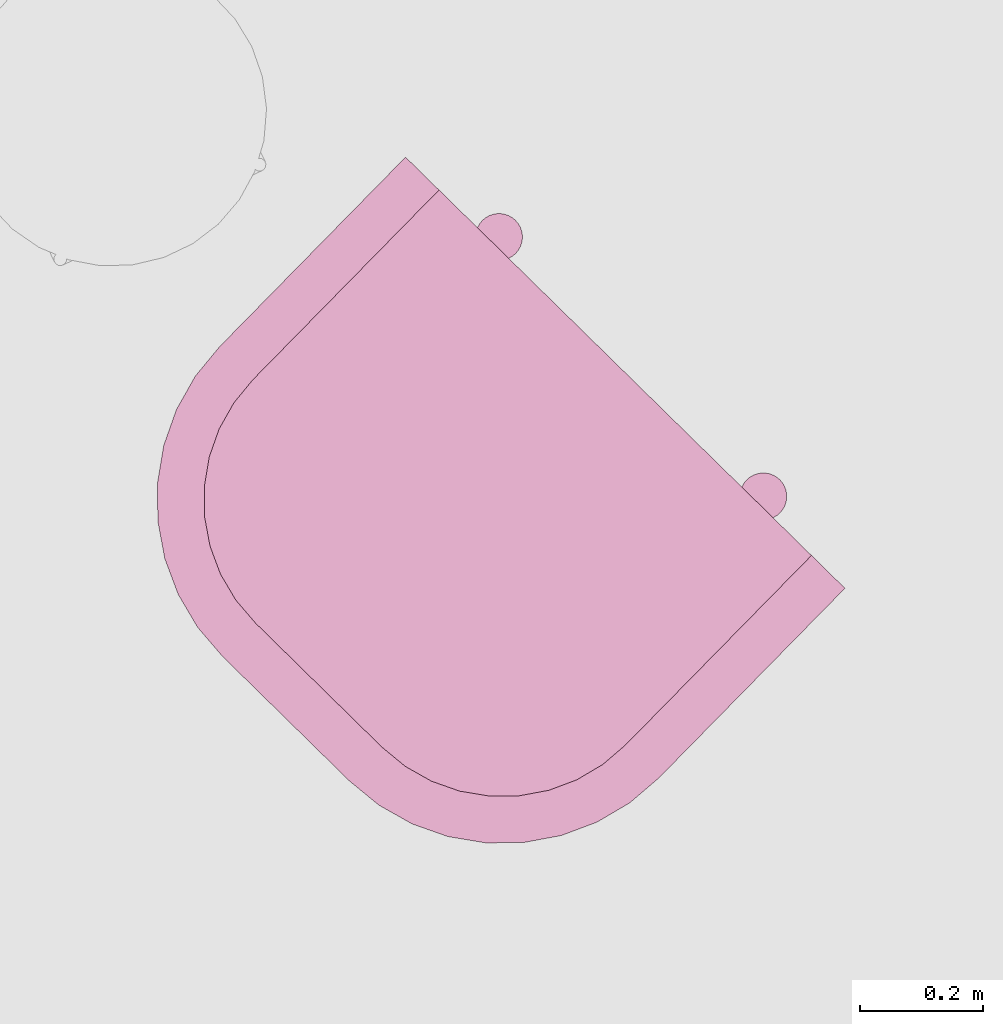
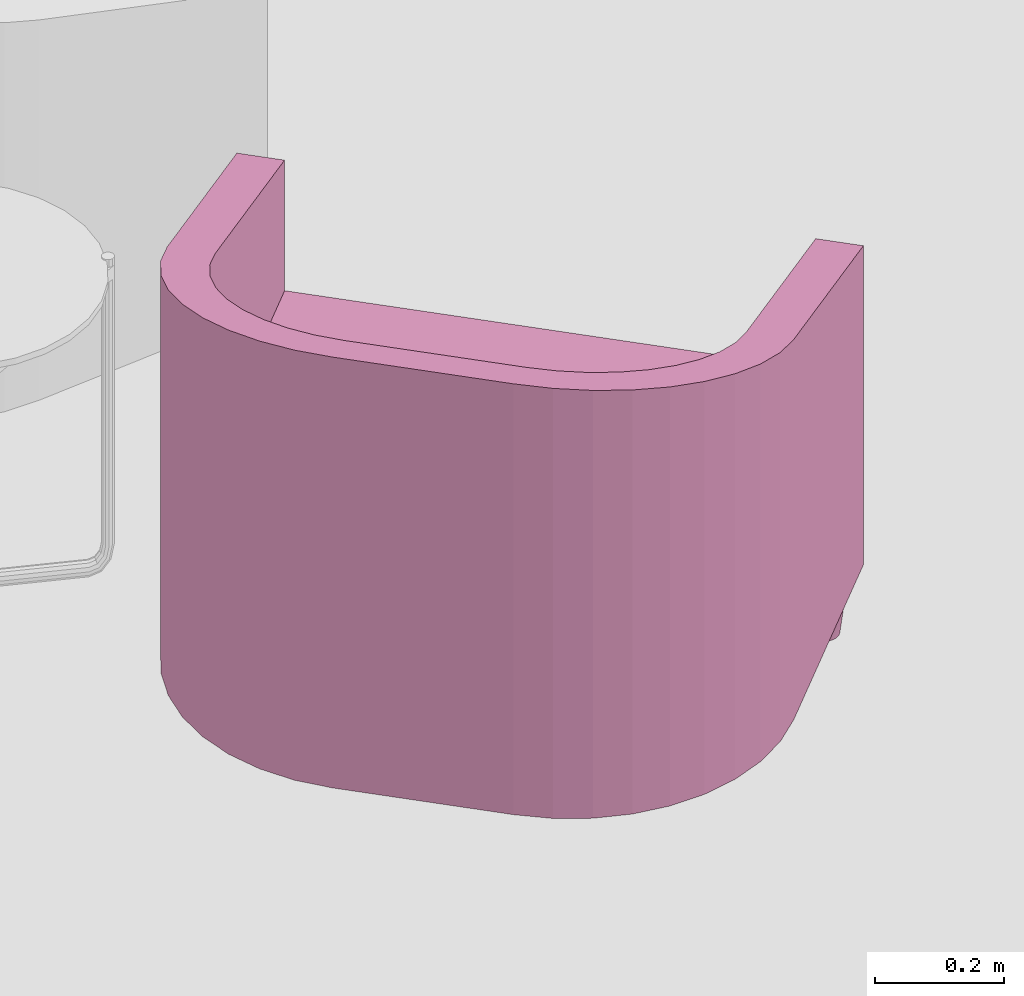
# One storey, part 32 of 52: 1 furnishing.
"""IFC2X3 building model written with IfcOpenShell, lengths in metres."""

from ifc_helpers import new_model, entity, si_unit, converted_unit, derived_unit, money_unit, direction, frame, origin_with_axes, place, context, subcontext, project, spatial, faceted_brep, source, transform, mapped, type_object, element, save


model = new_model("IFC2X3")

# Units and contexts
model_context = context("Model", 3, precision=1e-05, world=origin_with_axes(), true_north=direction((0.0, 1.0)))
body_context = subcontext(model_context, "Body", "Model", "MODEL_VIEW")
ifc_project = project(units=[si_unit("LENGTHUNIT", "METRE"), si_unit("AREAUNIT", "SQUARE_METRE"), si_unit("VOLUMEUNIT", "CUBIC_METRE"), converted_unit("PLANEANGLEUNIT", "DEGREE", entity("IfcPlaneAngleMeasure", 0.0174532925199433), si_unit("PLANEANGLEUNIT", "RADIAN"), dimensions=[0, 0, 0, 0, 0, 0, 0]), money_unit("EUR"), converted_unit("TIMEUNIT", "Year", entity("IfcTimeMeasure", 31556926.0), si_unit("TIMEUNIT", "SECOND"), dimensions=[0, 0, 1, 0, 0, 0, 0]), si_unit("MASSUNIT", "GRAM", prefix="KILO"), si_unit("THERMODYNAMICTEMPERATUREUNIT", "DEGREE_CELSIUS"), si_unit("LUMINOUSINTENSITYUNIT", "LUMEN"), si_unit("ENERGYUNIT", "JOULE", prefix="MEGA"), derived_unit("THERMALCONDUCTANCEUNIT", [(si_unit("POWERUNIT", "WATT"), 1), (si_unit("LENGTHUNIT", "METRE"), -1), (si_unit("THERMODYNAMICTEMPERATUREUNIT", "KELVIN"), -1)]), derived_unit("SPECIFICHEATCAPACITYUNIT", [(si_unit("ENERGYUNIT", "JOULE"), 1), (si_unit("MASSUNIT", "GRAM", prefix="KILO"), -1), (si_unit("THERMODYNAMICTEMPERATUREUNIT", "KELVIN"), -1)]), derived_unit("MASSDENSITYUNIT", [(si_unit("MASSUNIT", "GRAM", prefix="KILO"), 1), (si_unit("VOLUMEUNIT", "CUBIC_METRE"), -1)])], contexts=[model_context])

# Site, building, storey
site_placement = place(None, frame((-3.949935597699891, 1.740105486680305, 0.0), z_axis=(0.0, 0.0, 1.0), x_axis=(0.8799804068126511, -0.475009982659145, 0.0)))
site = spatial("IfcSite", under=ifc_project, at=site_placement, Name="Gelände", CompositionType="ELEMENT")
building_placement = place(site_placement, origin_with_axes())
building = spatial("IfcBuilding", under=site, at=building_placement, Name="Gebäude", CompositionType="ELEMENT")
storey_placement = place(building_placement, origin_with_axes())
storey = spatial("IfcBuildingStorey", under=building, at=storey_placement, Name="Erdgeschoss", CompositionType="ELEMENT", Elevation=0.0)

# Furnishing
furnishing_element_type = type_object("IfcFurnishingElementType", Name="bucket chair (1)")
shared_shape = source(origin_with_axes(), body_context, "Body", "Brep", [
    faceted_brep([(-0.47421411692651, 0.73188933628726, 0.0), (-0.4867211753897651, 0.72968400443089, 0.1016), (-0.4873, 0.7363000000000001, 0.1016), (-0.4746, 0.7363000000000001, 0.0), (-0.473068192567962, 0.7276126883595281, 0.0), (-0.485002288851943, 0.7232690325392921, 0.1016), (-0.482195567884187, 0.71725, 0.1016), (-0.478386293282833, 0.711809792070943, 0.1016), (-0.4736902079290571, 0.707113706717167, 0.1016), (-0.4682499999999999, 0.7033044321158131, 0.1016), (-0.462230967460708, 0.700497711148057, 0.1016), (-0.45581599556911, 0.698778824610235, 0.1016), (-0.4492, 0.6982000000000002, 0.1016), (-0.44258400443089, 0.698778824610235, 0.1016), (-0.436169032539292, 0.700497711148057, 0.1016), (-0.43015, 0.703304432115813, 0.1016), (-0.4247097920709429, 0.707113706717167, 0.1016), (-0.420013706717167, 0.711809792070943, 0.1016), (-0.4162044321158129, 0.71725, 0.1016), (-0.4133977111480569, 0.7232690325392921, 0.1016), (-0.4116788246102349, 0.72968400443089, 0.1016), (-0.4111, 0.7363000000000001, 0.1016), (-0.4116788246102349, 0.7429159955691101, 0.1016), (-0.4133977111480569, 0.749330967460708, 0.1016), (-0.4162044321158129, 0.7553500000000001, 0.1016), (-0.420013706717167, 0.7607902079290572, 0.1016), (-0.4247097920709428, 0.7654862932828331, 0.1016), (-0.43015, 0.7692955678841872, 0.1016), (-0.436169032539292, 0.7721022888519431, 0.1016), (-0.44258400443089, 0.7738211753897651, 0.1016), (-0.4492, 0.7744000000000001, 0.1016), (-0.45581599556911, 0.7738211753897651, 0.1016), (-0.462230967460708, 0.7721022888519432, 0.1016), (-0.46825, 0.7692955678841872, 0.1016), (-0.4736902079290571, 0.7654862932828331, 0.1016), (-0.4783862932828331, 0.7607902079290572, 0.1016), (-0.4821955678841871, 0.7553500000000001, 0.1016), (-0.4850022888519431, 0.749330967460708, 0.1016), (-0.4867211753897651, 0.7429159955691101, 0.1016), (-0.4742141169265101, 0.7407106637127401, 0.0), (-0.4730681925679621, 0.744987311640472, 0.0), (-0.4711970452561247, 0.7490000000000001, 0.0), (-0.468657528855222, 0.7526268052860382, 0.0), (-0.4655268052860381, 0.7557575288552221, 0.0), (-0.4619, 0.7582970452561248, 0.0), (-0.457887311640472, 0.7601681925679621, 0.0), (-0.45361066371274, 0.7613141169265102, 0.0), (-0.4492, 0.7617, 0.0), (-0.44478933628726, 0.7613141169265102, 0.0), (-0.440512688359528, 0.7601681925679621, 0.0), (-0.4365, 0.7582970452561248, 0.0), (-0.4328731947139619, 0.7557575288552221, 0.0), (-0.429742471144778, 0.7526268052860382, 0.0), (-0.4272029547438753, 0.7490000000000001, 0.0), (-0.4253318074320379, 0.744987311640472, 0.0), (-0.4241858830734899, 0.7407106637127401, 0.0), (-0.4238, 0.7363000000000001, 0.0), (-0.4241858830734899, 0.73188933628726, 0.0), (-0.4253318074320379, 0.7276126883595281, 0.0), (-0.4272029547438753, 0.7236000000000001, 0.0), (-0.429742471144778, 0.719973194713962, 0.0), (-0.4328731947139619, 0.7168424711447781, 0.0), (-0.4365, 0.7143029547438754, 0.0), (-0.440512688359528, 0.712431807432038, 0.0), (-0.44478933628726, 0.71128588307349, 0.0), (-0.4492, 0.7109000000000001, 0.0), (-0.45361066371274, 0.71128588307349, 0.0), (-0.457887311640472, 0.712431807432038, 0.0), (-0.4619, 0.7143029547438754, 0.0), (-0.4655268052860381, 0.7168424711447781, 0.0), (-0.468657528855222, 0.719973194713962, 0.0), (-0.4711970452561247, 0.7236000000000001, 0.0)], [[[0, 1, 2, 3]], [[4, 5, 1, 0]], [[1, 5, 6, 7, 8, 9, 10, 11, 12, 13, 14, 15, 16, 17, 18, 19, 20, 21, 22, 23, 24, 25, 26, 27, 28, 29, 30, 31, 32, 33, 34, 35, 36, 37, 38, 2]], [[3, 2, 38, 39]], [[0, 3, 39, 40, 41, 42, 43, 44, 45, 46, 47, 48, 49, 50, 51, 52, 53, 54, 55, 56, 57, 58, 59, 60, 61, 62, 63, 64, 65, 66, 67, 68, 69, 70, 71, 4]], [[71, 6, 5, 4]], [[70, 7, 6, 71]], [[69, 8, 7, 70]], [[68, 9, 8, 69]], [[67, 10, 9, 68]], [[66, 11, 10, 67]], [[65, 12, 11, 66]], [[64, 13, 12, 65]], [[63, 14, 13, 64]], [[62, 15, 14, 63]], [[61, 16, 15, 62]], [[60, 17, 16, 61]], [[59, 18, 17, 60]], [[58, 19, 18, 59]], [[57, 20, 19, 58]], [[56, 21, 20, 57]], [[55, 22, 21, 56]], [[54, 23, 22, 55]], [[53, 24, 23, 54]], [[52, 25, 24, 53]], [[51, 26, 25, 52]], [[50, 27, 26, 51]], [[49, 28, 27, 50]], [[48, 29, 28, 49]], [[47, 30, 29, 48]], [[46, 31, 30, 47]], [[45, 32, 31, 46]], [[44, 33, 32, 45]], [[43, 34, 33, 44]], [[42, 35, 34, 43]], [[41, 36, 35, 42]], [[40, 37, 36, 41]], [[39, 38, 37, 40]]]),
    faceted_brep([(0.42418588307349, 0.73188933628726, 0.0), (0.4116788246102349, 0.72968400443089, 0.1016), (0.4111, 0.7363000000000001, 0.1016), (0.4238, 0.7363000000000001, 0.0), (0.425331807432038, 0.7276126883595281, 0.0), (0.413397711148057, 0.7232690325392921, 0.1016), (0.4162044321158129, 0.71725, 0.1016), (0.420013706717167, 0.711809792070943, 0.1016), (0.4247097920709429, 0.707113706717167, 0.1016), (0.43015, 0.7033044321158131, 0.1016), (0.436169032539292, 0.700497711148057, 0.1016), (0.44258400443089, 0.698778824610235, 0.1016), (0.4492, 0.6982000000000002, 0.1016), (0.45581599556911, 0.698778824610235, 0.1016), (0.462230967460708, 0.700497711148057, 0.1016), (0.4682499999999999, 0.703304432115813, 0.1016), (0.4736902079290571, 0.707113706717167, 0.1016), (0.478386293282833, 0.711809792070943, 0.1016), (0.482195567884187, 0.71725, 0.1016), (0.4850022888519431, 0.7232690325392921, 0.1016), (0.4867211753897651, 0.72968400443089, 0.1016), (0.4873, 0.7363000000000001, 0.1016), (0.4867211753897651, 0.7429159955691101, 0.1016), (0.4850022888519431, 0.749330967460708, 0.1016), (0.482195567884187, 0.7553500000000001, 0.1016), (0.478386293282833, 0.7607902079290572, 0.1016), (0.4736902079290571, 0.7654862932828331, 0.1016), (0.4682499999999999, 0.7692955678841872, 0.1016), (0.462230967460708, 0.7721022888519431, 0.1016), (0.45581599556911, 0.7738211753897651, 0.1016), (0.4492, 0.7744000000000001, 0.1016), (0.44258400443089, 0.7738211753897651, 0.1016), (0.436169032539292, 0.7721022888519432, 0.1016), (0.43015, 0.7692955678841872, 0.1016), (0.4247097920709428, 0.7654862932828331, 0.1016), (0.4200137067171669, 0.7607902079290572, 0.1016), (0.4162044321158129, 0.7553500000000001, 0.1016), (0.4133977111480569, 0.749330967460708, 0.1016), (0.4116788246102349, 0.7429159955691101, 0.1016), (0.4241858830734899, 0.7407106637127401, 0.0), (0.4253318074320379, 0.744987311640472, 0.0), (0.4272029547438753, 0.7490000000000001, 0.0), (0.4297424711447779, 0.7526268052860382, 0.0), (0.4328731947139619, 0.7557575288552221, 0.0), (0.4365, 0.7582970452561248, 0.0), (0.440512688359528, 0.7601681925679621, 0.0), (0.44478933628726, 0.7613141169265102, 0.0), (0.4492, 0.7617, 0.0), (0.45361066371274, 0.7613141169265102, 0.0), (0.457887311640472, 0.7601681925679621, 0.0), (0.4619, 0.7582970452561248, 0.0), (0.4655268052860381, 0.7557575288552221, 0.0), (0.468657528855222, 0.7526268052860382, 0.0), (0.4711970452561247, 0.7490000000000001, 0.0), (0.4730681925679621, 0.744987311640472, 0.0), (0.4742141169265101, 0.7407106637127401, 0.0), (0.4746, 0.7363000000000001, 0.0), (0.4742141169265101, 0.73188933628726, 0.0), (0.4730681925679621, 0.7276126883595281, 0.0), (0.4711970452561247, 0.7236000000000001, 0.0), (0.468657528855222, 0.719973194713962, 0.0), (0.4655268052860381, 0.7168424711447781, 0.0), (0.4619, 0.7143029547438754, 0.0), (0.457887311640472, 0.712431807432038, 0.0), (0.45361066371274, 0.71128588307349, 0.0), (0.4492, 0.7109000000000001, 0.0), (0.44478933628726, 0.71128588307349, 0.0), (0.440512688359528, 0.712431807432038, 0.0), (0.4365, 0.7143029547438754, 0.0), (0.4328731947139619, 0.7168424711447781, 0.0), (0.429742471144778, 0.719973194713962, 0.0), (0.4272029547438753, 0.7236000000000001, 0.0)], [[[0, 1, 2, 3]], [[4, 5, 1, 0]], [[1, 5, 6, 7, 8, 9, 10, 11, 12, 13, 14, 15, 16, 17, 18, 19, 20, 21, 22, 23, 24, 25, 26, 27, 28, 29, 30, 31, 32, 33, 34, 35, 36, 37, 38, 2]], [[3, 2, 38, 39]], [[0, 3, 39, 40, 41, 42, 43, 44, 45, 46, 47, 48, 49, 50, 51, 52, 53, 54, 55, 56, 57, 58, 59, 60, 61, 62, 63, 64, 65, 66, 67, 68, 69, 70, 71, 4]], [[71, 6, 5, 4]], [[70, 7, 6, 71]], [[69, 8, 7, 70]], [[68, 9, 8, 69]], [[67, 10, 9, 68]], [[66, 11, 10, 67]], [[65, 12, 11, 66]], [[64, 13, 12, 65]], [[63, 14, 13, 64]], [[62, 15, 14, 63]], [[61, 16, 15, 62]], [[60, 17, 16, 61]], [[59, 18, 17, 60]], [[58, 19, 18, 59]], [[57, 20, 19, 58]], [[56, 21, 20, 57]], [[55, 22, 21, 56]], [[54, 23, 22, 55]], [[53, 24, 23, 54]], [[52, 25, 24, 53]], [[51, 26, 25, 52]], [[50, 27, 26, 51]], [[49, 28, 27, 50]], [[48, 29, 28, 49]], [[47, 30, 29, 48]], [[46, 31, 30, 47]], [[45, 32, 31, 46]], [[44, 33, 32, 45]], [[43, 34, 33, 44]], [[42, 35, 34, 43]], [[41, 36, 35, 42]], [[40, 37, 36, 41]], [[39, 38, 37, 40]]]),
    faceted_brep([(-0.3258141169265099, 0.7963893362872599, 0.0), (-0.338321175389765, 0.7941840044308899, 0.1016), (-0.3388999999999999, 0.8008, 0.1016), (-0.3261999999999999, 0.8008, 0.0), (-0.3246681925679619, 0.792112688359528, 0.0), (-0.3366022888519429, 0.787769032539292, 0.1016), (-0.333795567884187, 0.78175, 0.1016), (-0.3299862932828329, 0.7763097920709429, 0.1016), (-0.325290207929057, 0.7716137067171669, 0.1016), (-0.3198499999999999, 0.767804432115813, 0.1016), (-0.3138309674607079, 0.7649977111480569, 0.1016), (-0.3074159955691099, 0.7632788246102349, 0.1016), (-0.3007999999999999, 0.7627, 0.1016), (-0.2941840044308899, 0.7632788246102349, 0.1016), (-0.2877690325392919, 0.7649977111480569, 0.1016), (-0.2817499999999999, 0.7678044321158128, 0.1016), (-0.2763097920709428, 0.7716137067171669, 0.1016), (-0.2716137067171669, 0.7763097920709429, 0.1016), (-0.2678044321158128, 0.78175, 0.1016), (-0.2649977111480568, 0.787769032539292, 0.1016), (-0.2632788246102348, 0.7941840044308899, 0.1016), (-0.2626999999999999, 0.8008, 0.1016), (-0.2632788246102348, 0.80741599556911, 0.1016), (-0.2649977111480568, 0.8138309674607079, 0.1016), (-0.2678044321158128, 0.81985, 0.1016), (-0.2716137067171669, 0.825290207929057, 0.1016), (-0.2763097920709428, 0.829986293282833, 0.1016), (-0.2817499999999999, 0.8337955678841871, 0.1016), (-0.2877690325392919, 0.8366022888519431, 0.1016), (-0.2941840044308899, 0.838321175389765, 0.1016), (-0.3007999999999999, 0.8389, 0.1016), (-0.3074159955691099, 0.838321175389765, 0.1016), (-0.3138309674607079, 0.8366022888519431, 0.1016), (-0.3198499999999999, 0.8337955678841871, 0.1016), (-0.3252902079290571, 0.829986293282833, 0.1016), (-0.329986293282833, 0.825290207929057, 0.1016), (-0.333795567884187, 0.81985, 0.1016), (-0.336602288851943, 0.8138309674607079, 0.1016), (-0.338321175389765, 0.80741599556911, 0.1016), (-0.32581411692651, 0.80521066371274, 0.0), (-0.324668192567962, 0.8094873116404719, 0.0), (-0.3227970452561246, 0.8135, 0.0), (-0.320257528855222, 0.8171268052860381, 0.0), (-0.317126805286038, 0.820257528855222, 0.0), (-0.3134999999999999, 0.8227970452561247, 0.0), (-0.3094873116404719, 0.824668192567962, 0.0), (-0.3052106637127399, 0.8258141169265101, 0.0), (-0.3007999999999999, 0.8261999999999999, 0.0), (-0.2963893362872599, 0.8258141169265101, 0.0), (-0.2921126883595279, 0.824668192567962, 0.0), (-0.2880999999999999, 0.8227970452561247, 0.0), (-0.2844731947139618, 0.820257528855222, 0.0), (-0.2813424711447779, 0.8171268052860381, 0.0), (-0.2788029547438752, 0.8135, 0.0), (-0.2769318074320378, 0.8094873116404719, 0.0), (-0.2757858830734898, 0.80521066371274, 0.0), (-0.2753999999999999, 0.8008, 0.0), (-0.2757858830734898, 0.7963893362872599, 0.0), (-0.2769318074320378, 0.792112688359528, 0.0), (-0.2788029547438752, 0.7881, 0.0), (-0.2813424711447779, 0.7844731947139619, 0.0), (-0.2844731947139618, 0.781342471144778, 0.0), (-0.2880999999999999, 0.7788029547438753, 0.0), (-0.2921126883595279, 0.7769318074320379, 0.0), (-0.2963893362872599, 0.77578588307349, 0.0), (-0.3007999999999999, 0.7754, 0.0), (-0.3052106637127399, 0.77578588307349, 0.0), (-0.3094873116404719, 0.7769318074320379, 0.0), (-0.3134999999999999, 0.7788029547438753, 0.0), (-0.317126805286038, 0.781342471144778, 0.0), (-0.3202575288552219, 0.7844731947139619, 0.0), (-0.3227970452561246, 0.7881, 0.0)], [[[0, 1, 2, 3]], [[4, 5, 1, 0]], [[1, 5, 6, 7, 8, 9, 10, 11, 12, 13, 14, 15, 16, 17, 18, 19, 20, 21, 22, 23, 24, 25, 26, 27, 28, 29, 30, 31, 32, 33, 34, 35, 36, 37, 38, 2]], [[3, 2, 38, 39]], [[0, 3, 39, 40, 41, 42, 43, 44, 45, 46, 47, 48, 49, 50, 51, 52, 53, 54, 55, 56, 57, 58, 59, 60, 61, 62, 63, 64, 65, 66, 67, 68, 69, 70, 71, 4]], [[71, 6, 5, 4]], [[70, 7, 6, 71]], [[69, 8, 7, 70]], [[68, 9, 8, 69]], [[67, 10, 9, 68]], [[66, 11, 10, 67]], [[65, 12, 11, 66]], [[64, 13, 12, 65]], [[63, 14, 13, 64]], [[62, 15, 14, 63]], [[61, 16, 15, 62]], [[60, 17, 16, 61]], [[59, 18, 17, 60]], [[58, 19, 18, 59]], [[57, 20, 19, 58]], [[56, 21, 20, 57]], [[55, 22, 21, 56]], [[54, 23, 22, 55]], [[53, 24, 23, 54]], [[52, 25, 24, 53]], [[51, 26, 25, 52]], [[50, 27, 26, 51]], [[49, 28, 27, 50]], [[48, 29, 28, 49]], [[47, 30, 29, 48]], [[46, 31, 30, 47]], [[45, 32, 31, 46]], [[44, 33, 32, 45]], [[43, 34, 33, 44]], [[42, 35, 34, 43]], [[41, 36, 35, 42]], [[40, 37, 36, 41]], [[39, 38, 37, 40]]]),
    faceted_brep([(0.2757858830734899, 0.7963893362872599, 0.0), (0.2632788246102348, 0.7941840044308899, 0.1016), (0.2626999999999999, 0.8008, 0.1016), (0.2753999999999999, 0.8008, 0.0), (0.2769318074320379, 0.792112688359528, 0.0), (0.2649977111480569, 0.787769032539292, 0.1016), (0.2678044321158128, 0.78175, 0.1016), (0.2716137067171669, 0.7763097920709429, 0.1016), (0.2763097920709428, 0.7716137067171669, 0.1016), (0.2817499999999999, 0.767804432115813, 0.1016), (0.2877690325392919, 0.7649977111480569, 0.1016), (0.2941840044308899, 0.7632788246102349, 0.1016), (0.3007999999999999, 0.7627, 0.1016), (0.3074159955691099, 0.7632788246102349, 0.1016), (0.3138309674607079, 0.7649977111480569, 0.1016), (0.3198499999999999, 0.7678044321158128, 0.1016), (0.325290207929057, 0.7716137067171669, 0.1016), (0.3299862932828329, 0.7763097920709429, 0.1016), (0.333795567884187, 0.78175, 0.1016), (0.336602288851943, 0.787769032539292, 0.1016), (0.338321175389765, 0.7941840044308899, 0.1016), (0.3388999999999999, 0.8008, 0.1016), (0.338321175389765, 0.80741599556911, 0.1016), (0.336602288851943, 0.8138309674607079, 0.1016), (0.333795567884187, 0.81985, 0.1016), (0.3299862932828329, 0.825290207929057, 0.1016), (0.3252902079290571, 0.829986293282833, 0.1016), (0.3198499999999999, 0.8337955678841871, 0.1016), (0.3138309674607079, 0.8366022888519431, 0.1016), (0.3074159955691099, 0.838321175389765, 0.1016), (0.3007999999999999, 0.8389, 0.1016), (0.2941840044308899, 0.838321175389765, 0.1016), (0.2877690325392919, 0.8366022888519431, 0.1016), (0.2817499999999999, 0.8337955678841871, 0.1016), (0.2763097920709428, 0.829986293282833, 0.1016), (0.2716137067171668, 0.825290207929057, 0.1016), (0.2678044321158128, 0.81985, 0.1016), (0.2649977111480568, 0.8138309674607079, 0.1016), (0.2632788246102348, 0.80741599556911, 0.1016), (0.2757858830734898, 0.80521066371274, 0.0), (0.2769318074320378, 0.8094873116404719, 0.0), (0.2788029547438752, 0.8135, 0.0), (0.2813424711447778, 0.8171268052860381, 0.0), (0.2844731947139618, 0.820257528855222, 0.0), (0.2880999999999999, 0.8227970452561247, 0.0), (0.2921126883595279, 0.824668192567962, 0.0), (0.2963893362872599, 0.8258141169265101, 0.0), (0.3007999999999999, 0.8261999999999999, 0.0), (0.3052106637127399, 0.8258141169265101, 0.0), (0.3094873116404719, 0.824668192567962, 0.0), (0.3134999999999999, 0.8227970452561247, 0.0), (0.317126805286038, 0.820257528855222, 0.0), (0.3202575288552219, 0.8171268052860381, 0.0), (0.3227970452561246, 0.8135, 0.0), (0.324668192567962, 0.8094873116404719, 0.0), (0.32581411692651, 0.80521066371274, 0.0), (0.3261999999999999, 0.8008, 0.0), (0.32581411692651, 0.7963893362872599, 0.0), (0.324668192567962, 0.792112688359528, 0.0), (0.3227970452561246, 0.7881, 0.0), (0.3202575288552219, 0.7844731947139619, 0.0), (0.317126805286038, 0.781342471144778, 0.0), (0.3134999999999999, 0.7788029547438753, 0.0), (0.3094873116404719, 0.7769318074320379, 0.0), (0.3052106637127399, 0.77578588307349, 0.0), (0.3007999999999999, 0.7754, 0.0), (0.2963893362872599, 0.77578588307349, 0.0), (0.2921126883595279, 0.7769318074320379, 0.0), (0.2880999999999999, 0.7788029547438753, 0.0), (0.2844731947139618, 0.781342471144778, 0.0), (0.2813424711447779, 0.7844731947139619, 0.0), (0.2788029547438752, 0.7881, 0.0)], [[[0, 1, 2, 3]], [[4, 5, 1, 0]], [[1, 5, 6, 7, 8, 9, 10, 11, 12, 13, 14, 15, 16, 17, 18, 19, 20, 21, 22, 23, 24, 25, 26, 27, 28, 29, 30, 31, 32, 33, 34, 35, 36, 37, 38, 2]], [[3, 2, 38, 39]], [[0, 3, 39, 40, 41, 42, 43, 44, 45, 46, 47, 48, 49, 50, 51, 52, 53, 54, 55, 56, 57, 58, 59, 60, 61, 62, 63, 64, 65, 66, 67, 68, 69, 70, 71, 4]], [[71, 6, 5, 4]], [[70, 7, 6, 71]], [[69, 8, 7, 70]], [[68, 9, 8, 69]], [[67, 10, 9, 68]], [[66, 11, 10, 67]], [[65, 12, 11, 66]], [[64, 13, 12, 65]], [[63, 14, 13, 64]], [[62, 15, 14, 63]], [[61, 16, 15, 62]], [[60, 17, 16, 61]], [[59, 18, 17, 60]], [[58, 19, 18, 59]], [[57, 20, 19, 58]], [[56, 21, 20, 57]], [[55, 22, 21, 56]], [[54, 23, 22, 55]], [[53, 24, 23, 54]], [[52, 25, 24, 53]], [[51, 26, 25, 52]], [[50, 27, 26, 51]], [[49, 28, 27, 50]], [[48, 29, 28, 49]], [[47, 30, 29, 48]], [[46, 31, 30, 47]], [[45, 32, 31, 46]], [[44, 33, 32, 45]], [[43, 34, 33, 44]], [[42, 35, 34, 43]], [[41, 36, 35, 42]], [[40, 37, 36, 41]], [[39, 38, 37, 40]]]),
    faceted_brep([(0.5, 0.7871, 0.1016), (0.5, 0.7871, 0.7034971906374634), (0.5, 0.3556, 0.8191172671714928), (0.5, 0.3556, 0.1016), (0.4238, 0.7871, 0.1016), (0.4238, 0.7871, 0.7034971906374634), (0.4238, 0.3556000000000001, 0.8191172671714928), (0.4195552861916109, 0.3070826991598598, 0.8321174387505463), (0.4069501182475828, 0.2600395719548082, 0.8447226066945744), (0.3863674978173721, 0.2159000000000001, 0.8565497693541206), (0.3584328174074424, 0.176005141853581, 0.8672395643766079), (0.323994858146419, 0.1415671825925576, 0.8764671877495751), (0.2841, 0.1136325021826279, 0.8839522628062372), (0.2399604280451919, 0.09304988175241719, 0.8894673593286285), (0.1929173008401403, 0.08044471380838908, 0.8928449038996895), (0.1444, 0.0762, 0.8939822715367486), (-0.1444000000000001, 0.07620000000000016, 0.8939822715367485), (-0.1929173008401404, 0.08044471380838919, 0.8928449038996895), (-0.2399604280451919, 0.0930498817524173, 0.8894673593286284), (-0.2841, 0.1136325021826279, 0.8839522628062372), (-0.3239948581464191, 0.1415671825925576, 0.8764671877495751), (-0.3584328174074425, 0.176005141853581, 0.8672395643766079), (-0.3863674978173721, 0.2159000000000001, 0.8565497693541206), (-0.4069501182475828, 0.2600395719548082, 0.8447226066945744), (-0.4195552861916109, 0.3070826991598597, 0.8321174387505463), (-0.4238, 0.3556, 0.8191172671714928), (-0.4238, 0.7871, 0.7034971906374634), (-0.5, 0.7871, 0.7034971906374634), (-0.4999999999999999, 0.3555999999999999, 0.8191172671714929), (-0.494597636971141, 0.2938507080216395, 0.8356629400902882), (-0.4785546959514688, 0.2339776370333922, 0.8517058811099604), (-0.4523586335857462, 0.1778, 0.8667586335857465), (-0.4168054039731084, 0.1270247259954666, 0.8803638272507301), (-0.3729752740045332, 0.08319459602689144, 0.8921080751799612), (-0.3221999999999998, 0.04764136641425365, 0.9016345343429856), (-0.2660223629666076, 0.02144530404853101, 0.9086537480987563), (-0.2061492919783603, 0.005402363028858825, 0.9129524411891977), (-0.1444, 0.0, 0.9144000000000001), (0.0, 0.0, 0.9144000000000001), (0.1444000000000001, 0.0, 0.9144000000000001), (0.2061492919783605, 0.005402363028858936, 0.9129524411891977), (0.2660223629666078, 0.02144530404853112, 0.9086537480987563), (0.3222, 0.04764136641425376, 0.9016345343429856), (0.3729752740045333, 0.08319459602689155, 0.892108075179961), (0.4168054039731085, 0.1270247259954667, 0.8803638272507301), (0.4523586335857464, 0.1778000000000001, 0.8667586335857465), (0.4785546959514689, 0.2339776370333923, 0.8517058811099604), (0.4945976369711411, 0.2938507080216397, 0.8356629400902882), (0.4945976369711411, 0.2938507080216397, 0.1016), (0.4785546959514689, 0.2339776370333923, 0.1016), (0.4523586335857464, 0.1778000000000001, 0.1016), (0.4168054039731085, 0.1270247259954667, 0.1016), (0.3729752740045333, 0.08319459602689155, 0.1016), (0.3222, 0.04764136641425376, 0.1016), (0.2660223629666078, 0.02144530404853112, 0.1016), (0.2061492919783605, 0.005402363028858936, 0.1016), (0.1444000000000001, 0.0, 0.1016), (0.0, 0.0, 0.1016), (-0.1444, 0.0, 0.1016), (-0.2061492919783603, 0.005402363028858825, 0.1016), (-0.2660223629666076, 0.02144530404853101, 0.1016), (-0.3221999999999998, 0.04764136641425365, 0.1016), (-0.3729752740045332, 0.08319459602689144, 0.1016), (-0.4168054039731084, 0.1270247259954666, 0.1016), (-0.4523586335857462, 0.1778, 0.1016), (-0.4785546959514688, 0.2339776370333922, 0.1016), (-0.494597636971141, 0.2938507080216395, 0.1016), (-0.4999999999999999, 0.3555999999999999, 0.1016), (-0.5, 0.7871, 0.1016), (-0.4238, 0.7871, 0.1016), (-0.4238, 0.3556, 0.1016), (-0.4195552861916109, 0.3070826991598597, 0.1016), (-0.4069501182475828, 0.2600395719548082, 0.1016), (-0.3863674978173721, 0.2159000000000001, 0.1016), (-0.3584328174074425, 0.176005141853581, 0.1016), (-0.3239948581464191, 0.1415671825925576, 0.1016), (-0.2841, 0.1136325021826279, 0.1016), (-0.2399604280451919, 0.0930498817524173, 0.1016), (-0.1929173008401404, 0.08044471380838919, 0.1016), (-0.1444000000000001, 0.07620000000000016, 0.1016), (0.1444, 0.0762, 0.1016), (0.1929173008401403, 0.08044471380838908, 0.1016), (0.2399604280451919, 0.09304988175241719, 0.1016), (0.2841, 0.1136325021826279, 0.1016), (0.323994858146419, 0.1415671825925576, 0.1016), (0.3584328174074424, 0.176005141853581, 0.1016), (0.3863674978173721, 0.2159000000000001, 0.1016), (0.4069501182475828, 0.2600395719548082, 0.1016), (0.4195552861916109, 0.3070826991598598, 0.1016), (0.4238, 0.3556000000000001, 0.1016)], [[[0, 1, 2, 3]], [[4, 5, 1, 0]], [[1, 5, 6, 7, 8, 9, 10, 11, 12, 13, 14, 15, 16, 17, 18, 19, 20, 21, 22, 23, 24, 25, 26, 27, 28, 29, 30, 31, 32, 33, 34, 35, 36, 37, 38, 39, 40, 41, 42, 43, 44, 45, 46, 47, 2]], [[3, 2, 47, 48]], [[0, 3, 48, 49, 50, 51, 52, 53, 54, 55, 56, 57, 58, 59, 60, 61, 62, 63, 64, 65, 66, 67, 68, 69, 70, 71, 72, 73, 74, 75, 76, 77, 78, 79, 80, 81, 82, 83, 84, 85, 86, 87, 88, 89, 4]], [[89, 6, 5, 4]], [[88, 7, 6, 89]], [[87, 8, 7, 88]], [[86, 9, 8, 87]], [[85, 10, 9, 86]], [[84, 11, 10, 85]], [[83, 12, 11, 84]], [[82, 13, 12, 83]], [[81, 14, 13, 82]], [[80, 15, 14, 81]], [[79, 16, 15, 80]], [[78, 17, 16, 79]], [[77, 18, 17, 78]], [[76, 19, 18, 77]], [[75, 20, 19, 76]], [[74, 21, 20, 75]], [[73, 22, 21, 74]], [[72, 23, 22, 73]], [[71, 24, 23, 72]], [[70, 25, 24, 71]], [[69, 26, 25, 70]], [[68, 27, 26, 69]], [[67, 28, 27, 68]], [[66, 29, 28, 67]], [[65, 30, 29, 66]], [[64, 31, 30, 65]], [[63, 32, 31, 64]], [[62, 33, 32, 63]], [[61, 34, 33, 62]], [[60, 35, 34, 61]], [[59, 36, 35, 60]], [[58, 37, 36, 59]], [[57, 38, 37, 58]], [[56, 39, 38, 57]], [[55, 40, 39, 56]], [[54, 41, 40, 55]], [[53, 42, 41, 54]], [[52, 43, 42, 53]], [[51, 44, 43, 52]], [[50, 45, 44, 51]], [[49, 46, 45, 50]], [[48, 47, 46, 49]]]),
    faceted_brep([(0.4238, 0.7871, 0.1016), (0.4238, 0.7871, 0.4572000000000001), (0.4238, 0.3556000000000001, 0.4572000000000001), (0.4238, 0.3556000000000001, 0.1016), (-0.4238, 0.7871, 0.1016), (-0.4238, 0.7871, 0.4572000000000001), (-0.4238, 0.3556, 0.4572000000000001), (-0.4195552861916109, 0.3070826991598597, 0.4572000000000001), (-0.4069501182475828, 0.2600395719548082, 0.4572000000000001), (-0.3863674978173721, 0.2159000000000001, 0.4572000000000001), (-0.3584328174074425, 0.176005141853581, 0.4572000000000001), (-0.3239948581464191, 0.1415671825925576, 0.4572000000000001), (-0.2841, 0.1136325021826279, 0.4572000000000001), (-0.2399604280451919, 0.0930498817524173, 0.4572000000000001), (-0.1929173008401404, 0.08044471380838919, 0.4572000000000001), (-0.1444000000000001, 0.07620000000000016, 0.4572000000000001), (0.1444, 0.0762, 0.4572000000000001), (0.1929173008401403, 0.08044471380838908, 0.4572000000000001), (0.2399604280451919, 0.09304988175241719, 0.4572000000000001), (0.2841, 0.1136325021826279, 0.4572000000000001), (0.323994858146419, 0.1415671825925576, 0.4572000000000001), (0.3584328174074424, 0.176005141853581, 0.4572000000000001), (0.3863674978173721, 0.2159000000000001, 0.4572000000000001), (0.4069501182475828, 0.2600395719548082, 0.4572000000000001), (0.4195552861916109, 0.3070826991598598, 0.4572000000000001), (0.4195552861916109, 0.3070826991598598, 0.1016), (0.4069501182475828, 0.2600395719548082, 0.1016), (0.3863674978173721, 0.2159000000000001, 0.1016), (0.3584328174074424, 0.176005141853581, 0.1016), (0.323994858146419, 0.1415671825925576, 0.1016), (0.2841, 0.1136325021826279, 0.1016), (0.2399604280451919, 0.09304988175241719, 0.1016), (0.1929173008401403, 0.08044471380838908, 0.1016), (0.1444, 0.0762, 0.1016), (-0.1444000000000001, 0.07620000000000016, 0.1016), (-0.1929173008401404, 0.08044471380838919, 0.1016), (-0.2399604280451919, 0.0930498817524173, 0.1016), (-0.2841, 0.1136325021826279, 0.1016), (-0.3239948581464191, 0.1415671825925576, 0.1016), (-0.3584328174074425, 0.176005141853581, 0.1016), (-0.3863674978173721, 0.2159000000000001, 0.1016), (-0.4069501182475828, 0.2600395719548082, 0.1016), (-0.4195552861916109, 0.3070826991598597, 0.1016), (-0.4238, 0.3556, 0.1016)], [[[0, 1, 2, 3]], [[4, 5, 1, 0]], [[1, 5, 6, 7, 8, 9, 10, 11, 12, 13, 14, 15, 16, 17, 18, 19, 20, 21, 22, 23, 24, 2]], [[3, 2, 24, 25]], [[0, 3, 25, 26, 27, 28, 29, 30, 31, 32, 33, 34, 35, 36, 37, 38, 39, 40, 41, 42, 43, 4]], [[43, 6, 5, 4]], [[42, 7, 6, 43]], [[41, 8, 7, 42]], [[40, 9, 8, 41]], [[39, 10, 9, 40]], [[38, 11, 10, 39]], [[37, 12, 11, 38]], [[36, 13, 12, 37]], [[35, 14, 13, 36]], [[34, 15, 14, 35]], [[33, 16, 15, 34]], [[32, 17, 16, 33]], [[31, 18, 17, 32]], [[30, 19, 18, 31]], [[29, 20, 19, 30]], [[28, 21, 20, 29]], [[27, 22, 21, 28]], [[26, 23, 22, 27]], [[25, 24, 23, 26]]]),
])
furnishing_placement = place(storey_placement, frame((24.66939743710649, 11.9610500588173, 0.0), z_axis=(0.0, 0.0, 1.0), x_axis=(0.9607991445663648, -0.2772453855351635, 0.0)))
element("IfcFurnishingElement", 1, at=furnishing_placement, inside=storey, type_object=furnishing_element_type, Name="Objekt-0069", context=body_context, shape_type="MappedRepresentation", body=[
    mapped(shared_shape, transform((0.0, 0.0, 0.0))),
])

save(model, "model.ifc")
